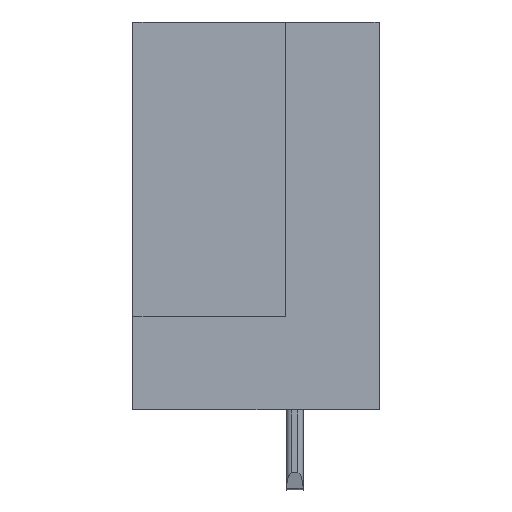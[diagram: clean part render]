
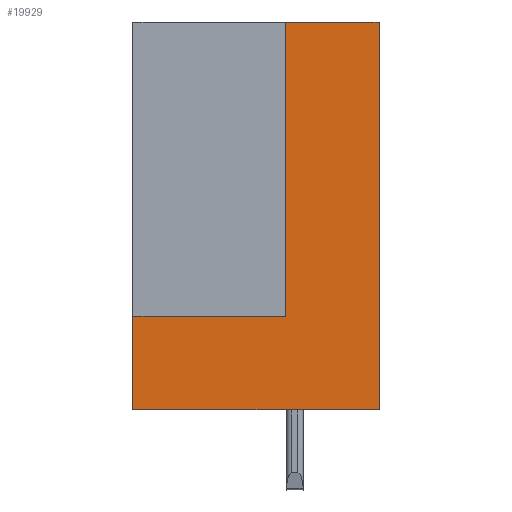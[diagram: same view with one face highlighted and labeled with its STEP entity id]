
A CAD part, left-side view. The second image highlights one B-rep face of the part: STEP entity #19929.
In plain terms, the highlighted planar face has unit normal (-1, 0, 0).
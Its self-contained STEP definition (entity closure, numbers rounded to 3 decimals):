
#1391 = CARTESIAN_POINT ( 'NONE',  ( -58.11, 9.2, -11. ) ) ;
#3517 = VERTEX_POINT ( 'NONE', #40605 ) ;
#4084 = PLANE ( 'NONE',  #40047 ) ;
#4149 = LINE ( 'NONE', #40429, #30871 ) ;
#5488 = ORIENTED_EDGE ( 'NONE', *, *, #7623, .F. ) ;
#5647 = LINE ( 'NONE', #23767, #16076 ) ;
#6361 = DIRECTION ( 'NONE',  ( 0., -1., 0. ) ) ;
#7623 = EDGE_CURVE ( 'NONE', #14606, #8411, #31638, .T. ) ;
#8411 = VERTEX_POINT ( 'NONE', #38756 ) ;
#9420 = EDGE_CURVE ( 'NONE', #3517, #8411, #5647, .T. ) ;
#10034 = DIRECTION ( 'NONE',  ( 0., 0., -1. ) ) ;
#10234 = EDGE_CURVE ( 'NONE', #10262, #32117, #4149, .T. ) ;
#10262 = VERTEX_POINT ( 'NONE', #34892 ) ;
#11224 = VECTOR ( 'NONE', #35868, 1000. ) ;
#11486 = VECTOR ( 'NONE', #36455, 1000. ) ;
#13019 = CARTESIAN_POINT ( 'NONE',  ( -58.11, 3.5, -11. ) ) ;
#13842 = CARTESIAN_POINT ( 'NONE',  ( -58.11, 3.5, -11. ) ) ;
#14482 = FACE_OUTER_BOUND ( 'NONE', #34753, .T. ) ;
#14606 = VERTEX_POINT ( 'NONE', #26237 ) ;
#16076 = VECTOR ( 'NONE', #39416, 1000. ) ;
#16462 = LINE ( 'NONE', #13842, #11486 ) ;
#18093 = VECTOR ( 'NONE', #18141, 1000. ) ;
#18141 = DIRECTION ( 'NONE',  ( 0., -1., 0. ) ) ;
#18154 = EDGE_CURVE ( 'NONE', #32117, #34073, #19069, .T. ) ;
#18188 = LINE ( 'NONE', #32964, #11224 ) ;
#19069 = LINE ( 'NONE', #1391, #18093 ) ;
#19929 = ADVANCED_FACE ( 'NONE', ( #14482 ), #4084, .F. ) ;
#23578 = ORIENTED_EDGE ( 'NONE', *, *, #36561, .F. ) ;
#23632 = EDGE_CURVE ( 'NONE', #10262, #3517, #18188, .T. ) ;
#23767 = CARTESIAN_POINT ( 'NONE',  ( -58.11, 0., -14.5 ) ) ;
#25214 = CARTESIAN_POINT ( 'NONE',  ( -58.11, 9.2, 0. ) ) ;
#26202 = DIRECTION ( 'NONE',  ( 1., 0., 0. ) ) ;
#26237 = CARTESIAN_POINT ( 'NONE',  ( -58.11, 3.5, 0. ) ) ;
#29439 = CARTESIAN_POINT ( 'NONE',  ( -58.11, 9.2, -11. ) ) ;
#30451 = ORIENTED_EDGE ( 'NONE', *, *, #23632, .T. ) ;
#30871 = VECTOR ( 'NONE', #41112, 1000. ) ;
#31638 = LINE ( 'NONE', #25214, #39066 ) ;
#32117 = VERTEX_POINT ( 'NONE', #29439 ) ;
#32964 = CARTESIAN_POINT ( 'NONE',  ( -58.11, 9.2, -14.5 ) ) ;
#34073 = VERTEX_POINT ( 'NONE', #13019 ) ;
#34202 = ORIENTED_EDGE ( 'NONE', *, *, #18154, .F. ) ;
#34753 = EDGE_LOOP ( 'NONE', ( #23578, #34202, #36047, #30451, #38271, #5488 ) ) ;
#34892 = CARTESIAN_POINT ( 'NONE',  ( -58.11, 9.2, -14.5 ) ) ;
#35386 = CARTESIAN_POINT ( 'NONE',  ( -58.11, 9.2, -14.5 ) ) ;
#35868 = DIRECTION ( 'NONE',  ( 0., -1., 0. ) ) ;
#36047 = ORIENTED_EDGE ( 'NONE', *, *, #10234, .F. ) ;
#36455 = DIRECTION ( 'NONE',  ( 0., 0., 1. ) ) ;
#36561 = EDGE_CURVE ( 'NONE', #34073, #14606, #16462, .T. ) ;
#38271 = ORIENTED_EDGE ( 'NONE', *, *, #9420, .T. ) ;
#38756 = CARTESIAN_POINT ( 'NONE',  ( -58.11, 0., 0. ) ) ;
#39066 = VECTOR ( 'NONE', #6361, 1000. ) ;
#39416 = DIRECTION ( 'NONE',  ( 0., 0., 1. ) ) ;
#40047 = AXIS2_PLACEMENT_3D ( 'NONE', #35386, #26202, #10034 ) ;
#40429 = CARTESIAN_POINT ( 'NONE',  ( -58.11, 9.2, -14.5 ) ) ;
#40605 = CARTESIAN_POINT ( 'NONE',  ( -58.11, 0., -14.5 ) ) ;
#41112 = DIRECTION ( 'NONE',  ( 0., 0., 1. ) ) ;
